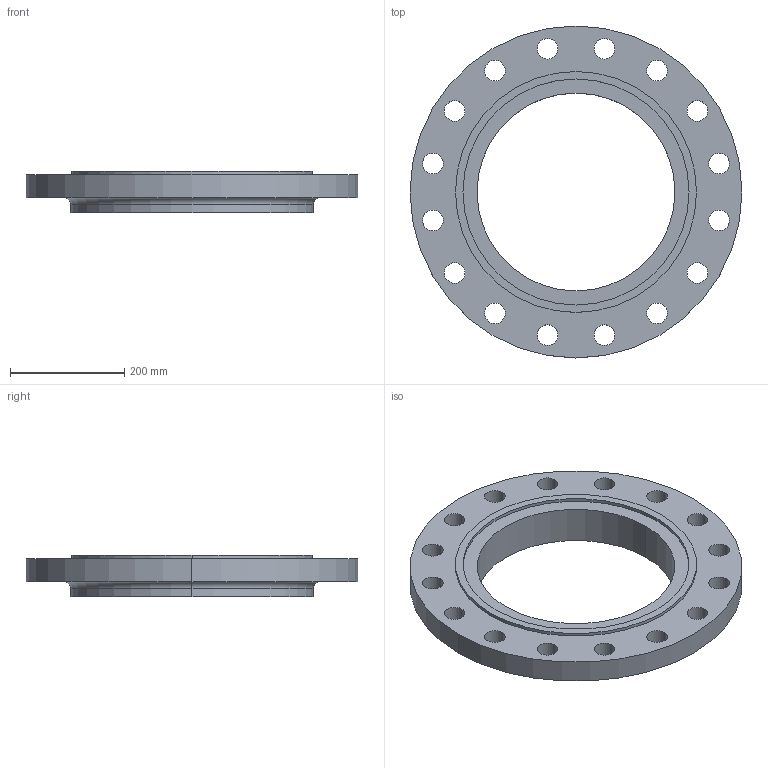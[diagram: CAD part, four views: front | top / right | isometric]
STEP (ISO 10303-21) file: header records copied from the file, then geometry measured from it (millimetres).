
FILE_DESCRIPTION (( 'STEP AP214' ), '1' );
FILE_NAME ('PN40 DN350 Type 13 - Type C Face.STEP', '2019-01-05T21:48:52', ( '' ), ( '' ), 'SwSTEP 2.0', 'SolidWorks 2019', '' );
FILE_SCHEMA (( 'AUTOMOTIVE_DESIGN' ));
Length unit declared in the file: millimetre
Products named in the file (1): PN40 DN350 Type 13 - Type C Face
Bounding box: 580 x 580 x 72 mm (x, y, z)
Volume: 7604534.7 mm3; surface area: 569387.8 mm2
Topology: 1 solids, 1 shells, 49 faces, 130 edges, 86 vertices
Faces by surface type: cylinder 42, plane 5, torus 2
Entity records: 1678 total; most frequent: DIRECTION 318, CARTESIAN_POINT 266, ORIENTED_EDGE 260, AXIS2_PLACEMENT_3D 138, EDGE_CURVE 130, CIRCLE 88, VERTEX_POINT 86, EDGE_LOOP 86
